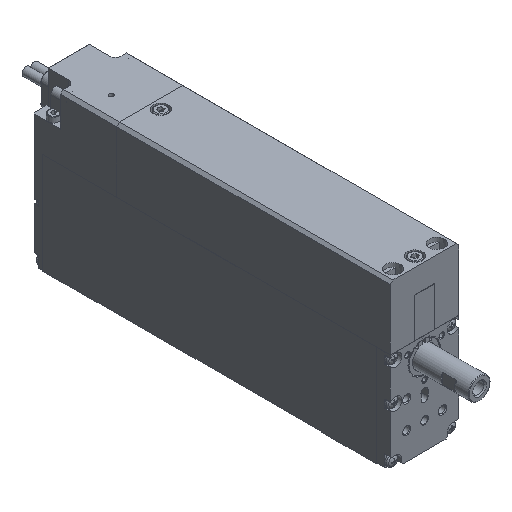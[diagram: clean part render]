
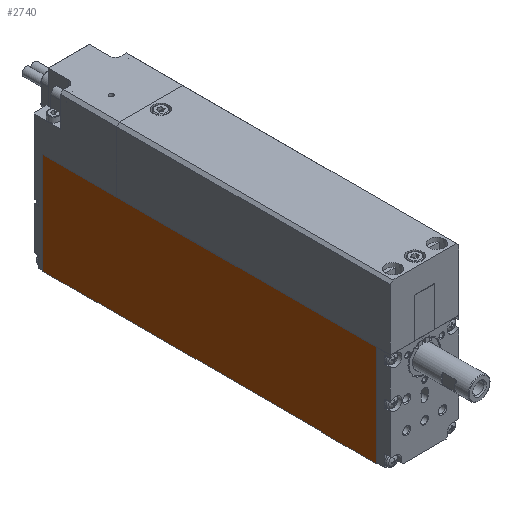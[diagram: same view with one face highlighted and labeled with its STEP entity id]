
A CAD part, isometric view. The second image highlights one B-rep face of the part: STEP entity #2740.
In plain terms, the highlighted planar face has unit normal (-1, 0, 0).
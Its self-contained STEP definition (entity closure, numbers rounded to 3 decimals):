
#1898=CARTESIAN_POINT('',(0.,36.8,0.0));
#1899=VERTEX_POINT('',#1898);
#1906=CARTESIAN_POINT('',(0.0,0.,0.0));
#1907=VERTEX_POINT('',#1906);
#1908=CARTESIAN_POINT('',(0.,36.8,0.0));
#1909=DIRECTION('',(0.0,-1.0,0.0));
#1910=VECTOR('',#1909,36.8);
#1911=LINE('',#1908,#1910);
#1912=EDGE_CURVE('',#1899,#1907,#1911,.T.);
#2220=CARTESIAN_POINT('',(0.,0.,-101.5));
#2221=VERTEX_POINT('',#2220);
#2228=CARTESIAN_POINT('',(0.0,0.,-121.5));
#2229=VERTEX_POINT('',#2228);
#2230=CARTESIAN_POINT('',(0.,0.,-101.5));
#2231=DIRECTION('',(0.0,0.0,-1.0));
#2232=VECTOR('',#2231,20.0);
#2233=LINE('',#2230,#2232);
#2234=EDGE_CURVE('',#2221,#2229,#2233,.T.);
#2650=CARTESIAN_POINT('',(0.,36.8,-121.5));
#2651=VERTEX_POINT('',#2650);
#2652=CARTESIAN_POINT('',(0.,36.8,-121.5));
#2653=DIRECTION('',(0.0,-1.0,0.0));
#2654=VECTOR('',#2653,36.8);
#2655=LINE('',#2652,#2654);
#2656=EDGE_CURVE('',#2651,#2229,#2655,.T.);
#2694=CARTESIAN_POINT('',(0.,36.8,0.0));
#2695=DIRECTION('',(-1.0,0.0,0.0));
#2696=DIRECTION('',(0.0,0.0,1.0));
#2697=AXIS2_PLACEMENT_3D('',#2694,#2695,#2696);
#2698=PLANE('',#2697);
#2699=ORIENTED_EDGE('',*,*,#2656,.T.);
#2700=ORIENTED_EDGE('',*,*,#2234,.F.);
#2701=CARTESIAN_POINT('',(0.,0.2,-101.5));
#2702=VERTEX_POINT('',#2701);
#2703=CARTESIAN_POINT('',(0.,0.,-101.5));
#2704=DIRECTION('',(0.0,1.0,0.0));
#2705=VECTOR('',#2704,0.2);
#2706=LINE('',#2703,#2705);
#2707=EDGE_CURVE('',#2221,#2702,#2706,.T.);
#2708=ORIENTED_EDGE('',*,*,#2707,.T.);
#2709=CARTESIAN_POINT('',(0.,0.2,-20.0));
#2710=VERTEX_POINT('',#2709);
#2711=CARTESIAN_POINT('',(0.,0.2,-101.5));
#2712=DIRECTION('',(0.0,0.0,1.0));
#2713=VECTOR('',#2712,81.5);
#2714=LINE('',#2711,#2713);
#2715=EDGE_CURVE('',#2702,#2710,#2714,.T.);
#2716=ORIENTED_EDGE('',*,*,#2715,.T.);
#2717=CARTESIAN_POINT('',(0.,0.,-20.0));
#2718=VERTEX_POINT('',#2717);
#2719=CARTESIAN_POINT('',(0.,0.2,-20.0));
#2720=DIRECTION('',(0.0,-1.0,0.0));
#2721=VECTOR('',#2720,0.2);
#2722=LINE('',#2719,#2721);
#2723=EDGE_CURVE('',#2710,#2718,#2722,.T.);
#2724=ORIENTED_EDGE('',*,*,#2723,.T.);
#2725=CARTESIAN_POINT('',(0.0,0.,0.0));
#2726=DIRECTION('',(0.0,0.0,-1.0));
#2727=VECTOR('',#2726,20.0);
#2728=LINE('',#2725,#2727);
#2729=EDGE_CURVE('',#1907,#2718,#2728,.T.);
#2730=ORIENTED_EDGE('',*,*,#2729,.F.);
#2731=ORIENTED_EDGE('',*,*,#1912,.F.);
#2732=CARTESIAN_POINT('',(0.,36.8,-121.5));
#2733=DIRECTION('',(0.0,0.0,1.0));
#2734=VECTOR('',#2733,121.5);
#2735=LINE('',#2732,#2734);
#2736=EDGE_CURVE('',#2651,#1899,#2735,.T.);
#2737=ORIENTED_EDGE('',*,*,#2736,.F.);
#2738=EDGE_LOOP('',(#2699,#2700,#2708,#2716,#2724,#2730,#2731,#2737));
#2739=FACE_OUTER_BOUND('',#2738,.T.);
#2740=ADVANCED_FACE('',(#2739),#2698,.T.);
